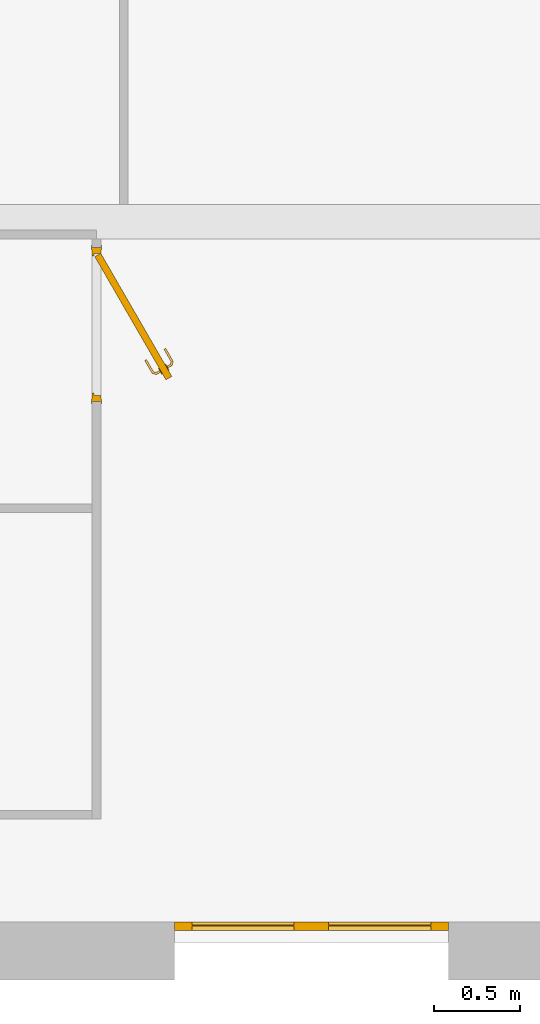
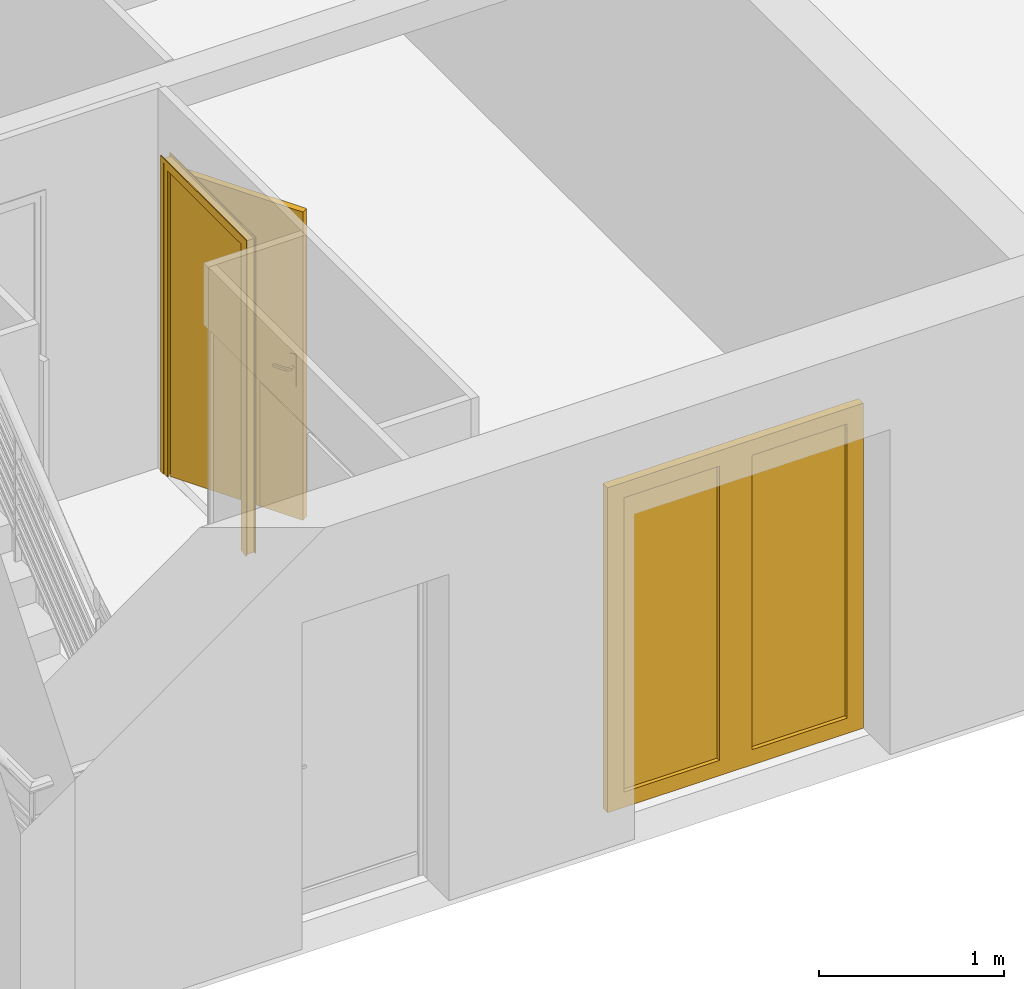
# One storey, part 7 of 13: 2 doors.
"""IFC2X3 building model written with IfcOpenShell, lengths in millimetres."""

from ifc_helpers import new_model, entity, si_unit, converted_unit, direction, frame, origin, origin_with_axes, place, context, project, spatial, faceted_brep, element, save


model = new_model("IFC2X3")

# Units and contexts
model_context = context("Model", 3, precision=1e-05, world=origin(), true_north=direction((0.0, 1.0, 0.0)))
ifc_project = project(units=[si_unit("LENGTHUNIT", "METRE", prefix="MILLI"), si_unit("AREAUNIT", "SQUARE_METRE"), si_unit("VOLUMEUNIT", "CUBIC_METRE"), converted_unit("PLANEANGLEUNIT", "DEGREE", entity("IfcPlaneAngleMeasure", 0.01745), si_unit("PLANEANGLEUNIT", "RADIAN"), dimensions=[0, 0, 0, 0, 0, 0, 0]), si_unit("SOLIDANGLEUNIT", "STERADIAN"), si_unit("MASSUNIT", "GRAM"), si_unit("TIMEUNIT", "SECOND"), si_unit("THERMODYNAMICTEMPERATUREUNIT", "DEGREE_CELSIUS"), si_unit("LUMINOUSINTENSITYUNIT", "LUMEN")], contexts=[model_context])

# Site, building, storey
placement = place(None, origin_with_axes())
site_placement = place(placement, frame((11636.08881703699, 2815.7442167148, 4.768371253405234e-06), z_axis=(0.0, 0.0, 1.0), x_axis=(1.0, 0.0, 0.0)))
site = spatial("IfcSite", under=ifc_project, at=site_placement, Name="Surface", CompositionType="ELEMENT")
building_placement = place(placement, origin_with_axes())
building = spatial("IfcBuilding", under=site, at=building_placement, Name="Default Building", CompositionType="ELEMENT")
storey_placement = place(building_placement, origin_with_axes())
storey = spatial("IfcBuildingStorey", under=building, at=storey_placement, Name="Rez de chaussée", CompositionType="ELEMENT", Elevation=0.0)

# Doors
door_1_placement = place(storey_placement, frame((11636.08881703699, 2815.7442167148, 4.768371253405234e-06), z_axis=(0.0, 0.0, 1.0), x_axis=(1.0, 0.0, 0.0)))
element("IfcDoor", 1, at=door_1_placement, inside=storey, Name="IfcDoor - Int. Simple:PP (0.83m x 2.04m)", context=model_context, shape_type="Brep", body=[
    faceted_brep([(-8221.088819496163, 579.2557809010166, 4.291534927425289e-05), (-8226.088818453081, 549.2557797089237, 4.291534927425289e-05), (-8226.088818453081, 579.2557809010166, 4.291534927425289e-05), (-8221.088819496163, 549.2557797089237, 4.291534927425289e-05), (-8221.088819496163, 1449.255785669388, 4.291534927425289e-05), (-8226.088818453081, 1479.255786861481, 4.291534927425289e-05), (-8221.088819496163, 1479.255786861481, 4.291534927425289e-05), (-8226.088818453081, 1449.255785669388, 4.291534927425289e-05), (-8221.088819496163, 579.2557809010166, 2059.99998569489), (-8226.088818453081, 1449.255785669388, 2059.99998569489), (-8221.088819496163, 1449.255785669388, 2059.99998569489), (-8226.088818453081, 579.2557809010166, 2059.99998569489), (-8226.088818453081, 549.2557797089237, 2089.999957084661), (-8221.088819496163, 1479.255786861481, 2089.999957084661), (-8226.088818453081, 1479.255786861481, 2089.999957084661), (-8221.088819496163, 549.2557797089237, 2089.999957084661), (-8276.08881919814, 579.2557809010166, 2059.99998569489), (-8281.088818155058, 1449.255785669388, 2059.99998569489), (-8276.08881919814, 1449.255785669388, 2059.99998569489), (-8281.088818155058, 579.2557809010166, 2059.99998569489), (-8281.088818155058, 549.2557797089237, 2089.999957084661), (-8276.08881919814, 1479.255786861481, 2089.999957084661), (-8281.088818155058, 1479.255786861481, 2089.999957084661), (-8276.08881919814, 549.2557797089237, 2089.999957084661), (-8276.08881919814, 1479.255786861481, 4.291534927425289e-05), (-8281.088818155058, 1479.255786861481, 4.291534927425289e-05), (-8281.088818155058, 1449.255785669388, 4.291534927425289e-05), (-8276.08881919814, 1449.255785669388, 4.291534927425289e-05), (-8276.08881919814, 579.2557809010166, 4.291534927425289e-05), (-8281.088818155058, 579.2557809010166, 4.291534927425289e-05), (-8281.088818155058, 549.2557797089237, 4.291534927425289e-05), (-8276.08881919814, 549.2557797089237, 4.291534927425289e-05), (-8226.088818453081, 599.2557916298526, 2040.000004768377), (-8266.088818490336, 1429.255774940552, 2040.000004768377), (-8226.088818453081, 1429.255774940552, 2040.000004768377), (-8266.088818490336, 599.2557916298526, 2040.000004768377), (-8266.088818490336, 614.2557773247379, 2025.000019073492), (-8276.08881919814, 1414.255789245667, 2025.000019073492), (-8266.088818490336, 1414.255789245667, 2025.000019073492), (-8276.08881919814, 614.2557773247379, 2025.000019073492), (-8276.08881919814, 564.2557952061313, 2074.999971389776), (-8226.088818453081, 1464.255771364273, 2074.999971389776), (-8276.08881919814, 1464.255771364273, 2074.999971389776), (-8226.088818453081, 564.2557952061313, 2074.999971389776), (-8266.088818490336, 1429.255774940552, 4.291534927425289e-05), (-8226.088818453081, 1429.255774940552, 4.291534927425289e-05), (-8276.08881919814, 1414.255789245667, 4.291534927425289e-05), (-8266.088818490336, 1414.255789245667, 4.291534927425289e-05), (-8276.08881919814, 1464.255771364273, 4.291534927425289e-05), (-8226.088818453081, 1464.255771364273, 4.291534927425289e-05), (-8226.088818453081, 599.2557916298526, 4.291534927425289e-05), (-8226.088818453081, 564.2557952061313, 4.291534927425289e-05), (-8266.088818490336, 599.2557916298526, 4.291534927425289e-05), (-8266.088818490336, 614.2557773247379, 4.291534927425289e-05), (-8276.08881919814, 614.2557773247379, 4.291534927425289e-05), (-8276.08881919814, 564.2557952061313, 4.291534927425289e-05), (-7845.729829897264, 690.4547096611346, 2039.999980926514), (-7811.088817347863, 710.4546905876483, 1.907348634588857e-05), (-7811.088817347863, 710.4546905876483, 2039.999980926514), (-7845.729829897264, 690.4547096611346, 1.907348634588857e-05), (-8226.088823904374, 1429.255771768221, 1.907348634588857e-05), (-8260.729836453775, 1409.255790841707, 1.907348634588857e-05), (-8226.088823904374, 1429.255771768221, 2039.999980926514), (-8260.729836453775, 1409.255790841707, 2039.999980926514), (-7923.509924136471, 731.1821994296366, 992.2195583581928), (-7943.646589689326, 770.1105219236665, 992.1213131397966), (-7920.840910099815, 734.6605253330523, 992.2195583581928), (-7946.09417247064, 762.3498593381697, 992.99999922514), (-7962.944353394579, 807.5858191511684, 992.2195583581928), (-7938.862024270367, 773.82341259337, 992.99999922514), (-7966.452273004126, 805.560520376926, 992.2195583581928), (-7959.502155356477, 809.573169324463, 992.99999922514), (-7918.221908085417, 738.0736772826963, 992.99999922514), (-7926.128929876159, 727.7690437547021, 992.99999922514), (-7969.894463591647, 803.5731697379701, 992.99999922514), (-7946.09417247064, 762.3498593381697, 1007.000001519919), (-7969.894463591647, 803.5731697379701, 1007.000001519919), (-7926.128929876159, 727.7690437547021, 1007.000001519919), (-7966.452273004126, 805.560520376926, 1007.780442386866), (-7943.646589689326, 770.1105219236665, 1007.878685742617), (-7962.944353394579, 807.5858191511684, 1007.780442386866), (-7920.840910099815, 734.6605253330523, 1007.780442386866), (-7938.862031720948, 773.8234237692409, 1007.000001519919), (-7923.509924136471, 731.1821994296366, 1007.780442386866), (-7959.502155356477, 809.573169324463, 1007.000001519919), (-7918.221908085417, 738.0736772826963, 1007.000001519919), (-7902.532719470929, 733.8697728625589, 992.99999922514), (-7901.971172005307, 729.604389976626, 992.2195583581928), (-7901.398902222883, 725.257564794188, 992.2195583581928), (-7900.837353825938, 720.9921893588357, 992.99999922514), (-7900.837353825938, 720.9921893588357, 1007.000001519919), (-7901.398902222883, 725.257564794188, 1007.780442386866), (-7901.971172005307, 729.604389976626, 1007.780442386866), (-7902.532719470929, 733.8697728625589, 1007.000001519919), (-7883.05996188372, 745.1123748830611, 992.99999922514), (-7881.072611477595, 741.6701842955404, 992.2195583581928), (-7879.047312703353, 738.1622609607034, 992.2195583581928), (-7877.059962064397, 734.7200703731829, 992.99999922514), (-7877.059962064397, 734.7200703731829, 1007.000001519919), (-7879.047312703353, 738.1622609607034, 1007.780442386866), (-7881.072611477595, 741.6701842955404, 1007.780442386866), (-7883.05996188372, 745.1123748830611, 1007.000001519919), (-7823.050985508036, 833.2301010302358, 992.99999922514), (-7803.085739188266, 798.6492809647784, 1007.000001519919), (-7803.085739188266, 798.6492809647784, 992.99999922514), (-7846.906455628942, 874.5489832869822, 992.99999922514), (-7846.906455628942, 874.5489832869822, 1007.000001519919), (-7850.348646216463, 872.5616377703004, 992.2195583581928), (-7831.02329673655, 835.0385506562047, 992.1213131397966), (-7853.8565695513, 870.536338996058, 992.2195583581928), (-7811.697947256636, 797.5154625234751, 992.2195583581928), (-7836.63104327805, 832.7514496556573, 992.99999922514), (-7807.351122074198, 798.0877330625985, 992.2195583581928), (-7857.29876013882, 868.5489860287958, 992.99999922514), (-7815.963330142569, 796.9539146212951, 992.99999922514), (-7836.63104327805, 832.7514496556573, 1007.000001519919), (-7815.963330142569, 796.9539146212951, 1007.000001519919), (-7857.29876013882, 868.5489860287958, 1007.000001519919), (-7807.351122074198, 798.0877330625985, 1007.780442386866), (-7831.02329673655, 835.0385506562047, 1007.878685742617), (-7811.697947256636, 797.5154625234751, 1007.780442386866), (-7823.050985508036, 833.2300973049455, 1007.000001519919), (-7853.8565695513, 870.536338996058, 1007.780442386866), (-7850.348646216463, 872.5616377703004, 1007.780442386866), (-7809.8122649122, 773.545545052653, 1007.000001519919), (-7809.8122649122, 773.545545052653, 992.99999922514), (-7813.225420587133, 776.1645507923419, 992.2195583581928), (-7816.703746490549, 778.8335648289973, 992.2195583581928), (-7820.116902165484, 781.452568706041, 992.99999922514), (-7820.116902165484, 781.452568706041, 1007.000001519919), (-7816.703746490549, 778.8335648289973, 1007.780442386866), (-7813.225420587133, 776.1645507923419, 1007.780442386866), (-7833.758691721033, 759.7200688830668, 1007.000001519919), (-7833.758691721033, 759.7200688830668, 992.99999922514), (-7835.746040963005, 763.1622631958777, 992.2195583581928), (-7837.771339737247, 766.6701828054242, 992.2195583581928), (-7839.75869270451, 770.11237525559, 992.99999922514), (-7839.75869270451, 770.11237525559, 1007.000001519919), (-7837.771339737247, 766.6701828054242, 1007.780442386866), (-7835.746040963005, 763.1622631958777, 1007.780442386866), (-7885.729834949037, 759.7367321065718, 1079.999996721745), (-7890.059962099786, 757.2367307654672, 870.0000032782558), (-7890.059962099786, 757.2367307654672, 1079.999996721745), (-7885.729834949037, 759.7367321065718, 870.0000032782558), (-7885.236342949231, 748.8819775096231, 866.0039812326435), (-7880.906215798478, 751.3819788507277, 866.0039812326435), (-7880.059962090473, 739.9162207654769, 864.6410167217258), (-7875.729835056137, 742.4162221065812, 864.6410167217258), (-7870.553454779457, 733.4504690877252, 866.0039812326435), (-7874.883581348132, 730.9504640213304, 866.0039812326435), (-7870.059961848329, 722.5957107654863, 870.0000032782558), (-7865.729835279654, 725.0957158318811, 870.0000032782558), (-7870.059961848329, 722.5957107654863, 1079.999996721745), (-7865.729835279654, 725.0957158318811, 1079.999996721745), (-7874.883581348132, 730.9504640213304, 1083.996018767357), (-7870.553454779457, 733.4504690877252, 1083.996018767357), (-7880.059962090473, 739.9162207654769, 1085.358983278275), (-7875.729835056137, 742.4162221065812, 1085.358983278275), (-7880.906215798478, 751.3819788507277, 1083.996018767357), (-7885.236342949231, 748.8819775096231, 1083.996018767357), (-7826.758692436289, 747.5957130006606, 870.0000032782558), (-7831.088817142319, 745.0957153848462, 1079.999996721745), (-7831.088817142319, 745.0957153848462, 870.0000032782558), (-7826.758692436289, 747.5957130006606, 1079.999996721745), (-7835.912438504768, 753.4504686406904, 1083.996018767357), (-7831.582310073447, 755.9504662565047, 1083.996018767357), (-7841.088818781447, 762.4162216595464, 1085.358983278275), (-7836.758690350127, 764.916223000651, 1085.358983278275), (-7841.935074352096, 773.8819778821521, 1083.996018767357), (-7846.265199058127, 771.3819765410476, 1083.996018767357), (-7851.088820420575, 779.7367297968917, 1079.999996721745), (-7846.758691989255, 782.2367302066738, 1079.999996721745), (-7851.088820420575, 779.7367297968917, 870.0000032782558), (-7846.758691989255, 782.2367302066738, 870.0000032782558), (-7846.265199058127, 771.3819765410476, 866.0039812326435), (-7841.935074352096, 773.8819778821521, 866.0039812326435), (-7841.088818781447, 762.4162216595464, 864.6410167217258), (-7836.758690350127, 764.916223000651, 864.6410167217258), (-7831.582310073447, 755.9504662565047, 866.0039812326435), (-7835.912438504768, 753.4504686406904, 866.0039812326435)], [[[0, 1, 2]], [[0, 3, 1]], [[4, 5, 6]], [[4, 7, 5]], [[8, 9, 10]], [[8, 11, 9]], [[12, 13, 14]], [[12, 15, 13]], [[14, 6, 5]], [[14, 13, 6]], [[10, 7, 4]], [[10, 9, 7]], [[0, 11, 8]], [[0, 2, 11]], [[12, 9, 11]], [[14, 9, 12]], [[14, 7, 9]], [[7, 14, 5]], [[11, 1, 12]], [[1, 11, 2]], [[1, 15, 12]], [[1, 3, 15]], [[13, 10, 6]], [[13, 8, 10]], [[15, 8, 13]], [[15, 0, 8]], [[0, 15, 3]], [[6, 10, 4]], [[16, 17, 18]], [[16, 19, 17]], [[20, 21, 22]], [[20, 23, 21]], [[22, 24, 25]], [[22, 21, 24]], [[18, 26, 27]], [[18, 17, 26]], [[27, 25, 24]], [[27, 26, 25]], [[28, 19, 16]], [[28, 29, 19]], [[20, 17, 19]], [[22, 17, 20]], [[22, 26, 17]], [[26, 22, 25]], [[19, 30, 20]], [[30, 19, 29]], [[30, 23, 20]], [[30, 31, 23]], [[21, 18, 24]], [[21, 16, 18]], [[23, 16, 21]], [[23, 28, 16]], [[28, 23, 31]], [[24, 18, 27]], [[28, 30, 29]], [[28, 31, 30]], [[32, 33, 34]], [[32, 35, 33]], [[36, 37, 38]], [[36, 39, 37]], [[40, 41, 42]], [[40, 43, 41]], [[34, 44, 45]], [[34, 33, 44]], [[38, 46, 47]], [[38, 37, 46]], [[46, 44, 47]], [[48, 44, 46]], [[48, 45, 44]], [[45, 48, 49]], [[42, 49, 48]], [[42, 41, 49]], [[41, 34, 49]], [[41, 32, 34]], [[43, 32, 41]], [[43, 50, 32]], [[50, 43, 51]], [[49, 34, 45]], [[50, 35, 32]], [[50, 52, 35]], [[33, 38, 44]], [[33, 36, 38]], [[35, 36, 33]], [[35, 53, 36]], [[53, 35, 52]], [[44, 38, 47]], [[53, 39, 36]], [[53, 54, 39]], [[40, 54, 55]], [[40, 39, 54]], [[40, 37, 39]], [[42, 37, 40]], [[42, 46, 37]], [[46, 42, 48]], [[55, 43, 40]], [[55, 51, 43]], [[53, 55, 54]], [[52, 55, 53]], [[50, 55, 52]], [[55, 50, 51]], [[56, 57, 58]], [[56, 59, 57]], [[59, 60, 57]], [[59, 61, 60]], [[61, 62, 60]], [[61, 63, 62]], [[63, 58, 62]], [[63, 56, 58]], [[58, 60, 62]], [[58, 57, 60]], [[56, 61, 59]], [[56, 63, 61]], [[64, 65, 66]], [[64, 67, 65]], [[68, 69, 65]], [[70, 68, 65]], [[69, 68, 71]], [[72, 66, 69]], [[65, 69, 66]], [[64, 73, 67]], [[74, 70, 67]], [[67, 70, 65]], [[74, 75, 76]], [[67, 75, 74]], [[73, 75, 67]], [[75, 73, 77]], [[78, 79, 80]], [[81, 82, 79]], [[83, 81, 79]], [[75, 83, 79]], [[77, 83, 75]], [[76, 75, 78]], [[82, 84, 80]], [[85, 82, 81]], [[75, 79, 78]], [[82, 80, 79]], [[84, 72, 71]], [[82, 72, 84]], [[72, 82, 85]], [[76, 70, 74]], [[78, 70, 76]], [[78, 68, 70]], [[80, 68, 78]], [[80, 71, 68]], [[71, 80, 84]], [[66, 86, 87]], [[66, 72, 86]], [[73, 88, 89]], [[73, 64, 88]], [[89, 77, 73]], [[89, 90, 77]], [[83, 90, 91]], [[83, 77, 90]], [[85, 92, 93]], [[85, 81, 92]], [[93, 72, 85]], [[93, 86, 72]], [[87, 94, 95]], [[87, 86, 94]], [[87, 64, 66]], [[87, 88, 64]], [[95, 88, 87]], [[88, 95, 96]], [[89, 96, 97]], [[89, 88, 96]], [[97, 90, 89]], [[97, 98, 90]], [[91, 98, 99]], [[91, 90, 98]], [[83, 92, 81]], [[91, 92, 83]], [[91, 100, 92]], [[100, 91, 99]], [[93, 100, 101]], [[93, 92, 100]], [[101, 86, 93]], [[101, 94, 86]], [[96, 98, 97]], [[96, 99, 98]], [[95, 99, 96]], [[95, 100, 99]], [[94, 100, 95]], [[100, 94, 101]], [[102, 103, 104]], [[105, 103, 102]], [[106, 103, 105]], [[107, 108, 109]], [[110, 111, 108]], [[112, 110, 108]], [[102, 112, 108]], [[104, 112, 102]], [[105, 102, 107]], [[111, 113, 109]], [[114, 111, 110]], [[102, 108, 107]], [[111, 109, 108]], [[115, 114, 116]], [[117, 114, 115]], [[113, 114, 117]], [[118, 119, 120]], [[118, 121, 119]], [[122, 115, 119]], [[123, 122, 119]], [[115, 122, 117]], [[116, 120, 115]], [[119, 115, 120]], [[118, 103, 121]], [[106, 123, 121]], [[121, 123, 119]], [[117, 109, 113]], [[122, 109, 117]], [[122, 107, 109]], [[123, 107, 122]], [[123, 105, 107]], [[105, 123, 106]], [[124, 104, 103]], [[124, 125, 104]], [[112, 125, 126]], [[112, 104, 125]], [[114, 127, 128]], [[114, 110, 127]], [[128, 116, 114]], [[128, 129, 116]], [[120, 129, 130]], [[120, 116, 129]], [[103, 131, 124]], [[103, 118, 131]], [[132, 125, 124]], [[132, 133, 125]], [[126, 133, 134]], [[126, 125, 133]], [[112, 127, 110]], [[126, 127, 112]], [[126, 135, 127]], [[135, 126, 134]], [[128, 135, 136]], [[128, 127, 135]], [[136, 129, 128]], [[136, 137, 129]], [[130, 137, 138]], [[130, 129, 137]], [[130, 118, 120]], [[130, 131, 118]], [[138, 131, 130]], [[131, 138, 139]], [[124, 139, 132]], [[124, 131, 139]], [[136, 138, 137]], [[135, 138, 136]], [[135, 139, 138]], [[134, 139, 135]], [[134, 132, 139]], [[132, 134, 133]], [[140, 141, 142]], [[140, 143, 141]], [[144, 143, 145]], [[144, 141, 143]], [[146, 145, 147]], [[146, 144, 145]], [[148, 146, 147]], [[148, 149, 146]], [[150, 148, 151]], [[150, 149, 148]], [[151, 152, 150]], [[151, 153, 152]], [[154, 153, 155]], [[154, 152, 153]], [[156, 155, 157]], [[156, 154, 155]], [[158, 156, 157]], [[158, 159, 156]], [[142, 158, 140]], [[142, 159, 158]], [[146, 141, 144]], [[149, 141, 146]], [[150, 141, 149]], [[150, 142, 141]], [[150, 159, 142]], [[150, 156, 159]], [[150, 154, 156]], [[154, 150, 152]], [[157, 140, 158]], [[155, 140, 157]], [[153, 140, 155]], [[153, 143, 140]], [[153, 145, 143]], [[153, 147, 145]], [[153, 148, 147]], [[148, 153, 151]], [[160, 161, 162]], [[160, 163, 161]], [[164, 163, 165]], [[164, 161, 163]], [[166, 165, 167]], [[166, 164, 165]], [[168, 166, 167]], [[168, 169, 166]], [[170, 168, 171]], [[170, 169, 168]], [[171, 172, 170]], [[171, 173, 172]], [[174, 173, 175]], [[174, 172, 173]], [[176, 175, 177]], [[176, 174, 175]], [[178, 176, 177]], [[178, 179, 176]], [[162, 178, 160]], [[162, 179, 178]], [[176, 172, 174]], [[179, 172, 176]], [[162, 172, 179]], [[162, 170, 172]], [[162, 169, 170]], [[162, 166, 169]], [[162, 164, 166]], [[164, 162, 161]], [[167, 171, 168]], [[165, 171, 167]], [[163, 171, 165]], [[163, 173, 171]], [[163, 175, 173]], [[163, 177, 175]], [[163, 178, 177]], [[178, 163, 160]]]),
])
door_2_placement = place(storey_placement, frame((11636.08881703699, 2815.7442167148, 4.768371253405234e-06), z_axis=(0.0, 0.0, 1.0), x_axis=(1.0, 0.0, 0.0)))
element("IfcDoor", 2, at=door_2_placement, inside=storey, Name="IfcDoor - Double-Glass 1_no trim:PF 1.60 x 2.15", context=model_context, shape_type="Brep", body=[
    faceted_brep([(-7097.688817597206, -2475.744217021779, 2048.399996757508), (-6894.488820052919, -2475.744217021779, 101.6000032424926), (-7097.688817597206, -2475.744217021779, 101.6000032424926), (-6894.488820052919, -2475.744217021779, 2048.399996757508), (-7796.088830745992, -2475.744217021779, -4.768371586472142e-05), (-6196.088806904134, -2475.744217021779, -4.768371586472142e-05), (-7694.488839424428, -2475.744217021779, 101.6000032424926), (-7694.488839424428, -2475.744217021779, 2048.399996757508), (-7796.088830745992, -2475.744217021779, 2150.000047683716), (-6297.688798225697, -2475.744217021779, 101.6000032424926), (-6297.688798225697, -2475.744217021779, 2048.399996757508), (-6196.088806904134, -2475.744217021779, 2150.000047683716), (-6894.488820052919, -2526.544216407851, 2048.399996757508), (-7097.688817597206, -2526.544216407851, 101.6000032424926), (-6894.488820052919, -2526.544216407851, 101.6000032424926), (-7097.688817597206, -2526.544216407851, 2048.399996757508), (-6196.088806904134, -2526.544216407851, -4.768371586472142e-05), (-6297.688798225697, -2526.544216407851, 101.6000032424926), (-7796.088830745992, -2526.544216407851, -4.768371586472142e-05), (-6297.688798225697, -2526.544216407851, 2048.399996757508), (-6196.088806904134, -2526.544216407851, 2150.000047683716), (-7694.488839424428, -2526.544216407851, 2048.399996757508), (-7694.488839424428, -2526.544216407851, 101.6000032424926), (-7796.088830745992, -2526.544216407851, 2150.000047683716), (-7097.688817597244, -2501.144216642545, 2048.399996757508), (-7694.488839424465, -2494.000466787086, 2048.399996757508), (-7694.488839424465, -2501.144216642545, 2048.399996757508), (-7097.688817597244, -2494.000466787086, 2048.399996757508), (-7694.488839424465, -2501.144216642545, 101.6000032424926), (-7097.688817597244, -2494.000466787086, 101.6000032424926), (-7097.688817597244, -2501.144216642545, 101.6000032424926), (-7694.488839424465, -2494.000466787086, 101.6000032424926), (-6297.688798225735, -2501.144216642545, 2048.399996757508), (-6894.488820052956, -2494.000466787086, 2048.399996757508), (-6894.488820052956, -2501.144216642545, 2048.399996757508), (-6297.688798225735, -2494.000466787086, 2048.399996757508), (-6894.488820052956, -2501.144216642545, 101.6000032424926), (-6297.688798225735, -2494.000466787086, 101.6000032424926), (-6297.688798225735, -2501.144216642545, 101.6000032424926), (-6894.488820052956, -2494.000466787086, 101.6000032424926)], [[[0, 1, 2]], [[0, 3, 1]], [[4, 2, 5]], [[4, 6, 2]], [[4, 7, 6]], [[7, 8, 3]], [[8, 7, 4]], [[9, 5, 2]], [[10, 5, 9]], [[8, 10, 3]], [[10, 11, 5]], [[11, 10, 8]], [[12, 13, 14]], [[13, 12, 15]], [[16, 17, 18]], [[16, 19, 17]], [[19, 20, 21]], [[20, 19, 16]], [[14, 18, 17]], [[13, 18, 14]], [[22, 18, 13]], [[21, 18, 22]], [[21, 23, 18]], [[23, 21, 20]], [[3, 19, 12]], [[3, 10, 19]], [[1, 12, 14]], [[1, 3, 12]], [[9, 14, 17]], [[9, 1, 14]], [[10, 17, 19]], [[10, 9, 17]], [[7, 15, 21]], [[7, 0, 15]], [[6, 21, 22]], [[6, 7, 21]], [[2, 22, 13]], [[2, 6, 22]], [[0, 13, 15]], [[0, 2, 13]], [[5, 20, 16]], [[5, 11, 20]], [[4, 16, 18]], [[4, 5, 16]], [[8, 18, 23]], [[8, 4, 18]], [[11, 23, 20]], [[11, 8, 23]], [[24, 25, 26]], [[24, 27, 25]], [[28, 29, 30]], [[28, 31, 29]], [[27, 30, 29]], [[27, 24, 30]], [[25, 29, 31]], [[25, 27, 29]], [[26, 31, 28]], [[26, 25, 31]], [[24, 28, 30]], [[24, 26, 28]], [[32, 33, 34]], [[32, 35, 33]], [[36, 37, 38]], [[36, 39, 37]], [[35, 38, 37]], [[35, 32, 38]], [[33, 37, 39]], [[33, 35, 37]], [[34, 39, 36]], [[34, 33, 39]], [[32, 36, 38]], [[32, 34, 36]]]),
])

save(model, "model.ifc")
